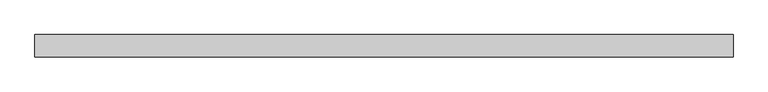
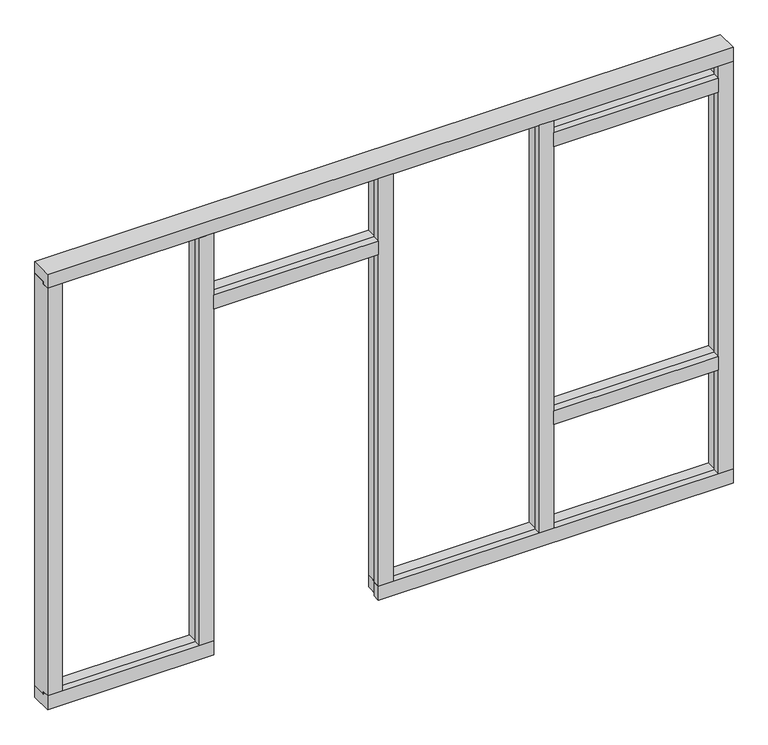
"""IFC4 building model written with IfcOpenShell, lengths in millimetres: proxy geometry, RBS_31_GM_pui_buiten_1 : pui-bxhxd=3750x2600x120."""

import ifcopenshell
import ifcopenshell.guid

model = None  # the IFC model being written
_history = None  # IfcOwnerHistory: only IFC2X3 demands one
_inside = {}  # id of a spatial element -> (the spatial element, [elements in it])
_under = {}  # id of a project, library or spatial element -> (it, [spatial elements below it])
_declared = {}  # id of a project -> (the project, [libraries it declares])
_typed = {}  # id of a type object -> (the type object, [elements of that type])
_made_of = {}  # id of a material, layer set ... -> (it, [elements and type objects made of it])


def new_model(schema):
    """Start an empty IFC model of exactly this schema.

    Asked for "IFC4X3", IfcOpenShell would pick the latest addendum, in which some entities
    have other attributes; the version numbers below select the first issue.
    IFC2X3 requires an IfcOwnerHistory on every rooted entity: one is made here for all.
    """
    global model, _history
    if schema == "IFC4X3":
        model = ifcopenshell.file(schema_version=(4, 3, 0, 0))
    else:
        model = ifcopenshell.file(schema=schema)
    _inside.clear()
    _under.clear()
    _declared.clear()
    _typed.clear()
    _made_of.clear()
    _history = None
    if model.schema == "IFC2X3":
        org = make("IfcOrganization", Name="unknown")
        user = make(
            "IfcPersonAndOrganization",
            ThePerson=make("IfcPerson", FamilyName="unknown"),
            TheOrganization=org,
        )
        app = make(
            "IfcApplication",
            ApplicationDeveloper=org,
            Version="unknown",
            ApplicationFullName="unknown",
            ApplicationIdentifier="unknown",
        )
        _history = make(
            "IfcOwnerHistory",
            OwningUser=user,
            OwningApplication=app,
            ChangeAction="ADDED",
            CreationDate=0,
        )
    return model


def make(cls, **values):
    """One entity of the class cls with the attributes given. An attribute that is None is left unset."""
    return model.create_entity(
        cls, **{name: value for name, value in values.items() if value is not None}
    )


def rooted(cls, **values):
    """An entity with a GlobalId (a new one), such as an element, a storey or a relation."""
    return make(cls, GlobalId=ifcopenshell.guid.new(), OwnerHistory=_history, **values)


def si_unit(unit_type, name, prefix=None):
    """IfcSIUnit, for example si_unit("LENGTHUNIT", "METRE", prefix="MILLI")."""
    return make("IfcSIUnit", UnitType=unit_type, Prefix=prefix, Name=name)


def assignment(units):
    """IfcUnitAssignment: the units of a project."""
    return None if units is None else make("IfcUnitAssignment", Units=units)


def point(xyz):
    """IfcCartesianPoint."""
    return None if xyz is None else make("IfcCartesianPoint", Coordinates=xyz)


def direction(xyz):
    """IfcDirection."""
    return None if xyz is None else make("IfcDirection", DirectionRatios=xyz)


def frame(location, z_axis=None, x_axis=None):
    """IfcAxis2Placement3D, a coordinate frame: its origin and axes. An axis left out is left unset."""
    return make(
        "IfcAxis2Placement3D",
        Location=point(location),
        Axis=direction(z_axis),
        RefDirection=direction(x_axis),
    )


def origin():
    """The frame at (0, 0, 0) with its axes left unset."""
    return frame((0.0, 0.0, 0.0))


def place(relative_to, where):
    """IfcLocalPlacement: puts the frame where relative to a parent placement (None: the world)."""
    return make(
        "IfcLocalPlacement", PlacementRelTo=relative_to, RelativePlacement=where
    )


def context(
    kind, dimensions, precision=None, world=None, true_north=None, identifier=None
):
    """IfcGeometricRepresentationContext, for example the 3D "Model" context."""
    return make(
        "IfcGeometricRepresentationContext",
        ContextIdentifier=identifier,
        ContextType=kind,
        CoordinateSpaceDimension=dimensions,
        Precision=precision,
        WorldCoordinateSystem=world,
        TrueNorth=true_north,
    )


def project(units=None, contexts=None):
    """IfcProject with its units and contexts."""
    return rooted(
        "IfcProject",
        Name="project",
        RepresentationContexts=contexts,
        UnitsInContext=assignment(units),
    )


def spatial(cls, under=None, at=None, **own):
    """A site, building, storey or space (cls), placed at a placement, below another one or the project."""
    s = rooted(cls, ObjectPlacement=at, **own)
    if under is not None:
        _under.setdefault(under.id(), (under, []))[1].append(s)
    return s


def polyline(points):
    """IfcPolyline through the points."""
    return make("IfcPolyline", Points=[point(p) for p in points])


def outline(outer, holes=None, kind="AREA"):
    """IfcArbitraryClosedProfileDef: a profile drawn as a closed curve; with holes, ...WithVoids."""
    if holes is None:
        return make("IfcArbitraryClosedProfileDef", ProfileType=kind, OuterCurve=outer)
    return make(
        "IfcArbitraryProfileDefWithVoids",
        ProfileType=kind,
        OuterCurve=outer,
        InnerCurves=holes,
    )


def extrude(swept, where, along, depth):
    """IfcExtrudedAreaSolid: the profile swept, set in the frame where, extruded along a direction by depth."""
    return make(
        "IfcExtrudedAreaSolid",
        SweptArea=swept,
        Position=where,
        ExtrudedDirection=direction(along),
        Depth=depth,
    )


def faces_of(points, faces, orient=None, outer=None):
    """IfcFace entities. A face is a list of loops; a loop is a list of indices into points, from 0.

    orient and outer hold one flag for each loop. By default every Orientation is true, the
    first loop of a face is its IfcFaceOuterBound and the others are IfcFaceBound.
    """
    made = []
    for i, loops in enumerate(faces):
        bounds = []
        for j, loop in enumerate(loops):
            is_outer = j == 0 if outer is None else outer[i][j]
            bounds.append(
                make(
                    "IfcFaceOuterBound" if is_outer else "IfcFaceBound",
                    Bound=make("IfcPolyLoop", Polygon=[points[k] for k in loop]),
                    Orientation=True if orient is None else orient[i][j],
                )
            )
        made.append(make("IfcFace", Bounds=bounds))
    return made


def faceted_brep(points, faces, orient=None, outer=None, voids=None):
    """IfcFacetedBrep: a solid bounded by flat faces; with voids (closed shells), ...WithVoids."""
    shared = [point(p) for p in points]
    hull = make("IfcClosedShell", CfsFaces=faces_of(shared, faces, orient, outer))
    if voids is None:
        return make("IfcFacetedBrep", Outer=hull)
    return make(
        "IfcFacetedBrepWithVoids",
        Outer=hull,
        Voids=[
            make(cls, CfsFaces=faces_of(shared, fs, o, b)) for cls, fs, o, b in voids
        ],
    )


def shape(context_of_items, identifier, shape_type, items):
    """IfcShapeRepresentation: the items that make up one representation, for example the "Body"."""
    return make(
        "IfcShapeRepresentation",
        ContextOfItems=context_of_items,
        RepresentationIdentifier=identifier,
        RepresentationType=shape_type,
        Items=items,
    )


def source(mapping_origin, context_of_items, identifier, shape_type, items):
    """IfcRepresentationMap: a shape defined once, which mapped items show again and again."""
    return make(
        "IfcRepresentationMap",
        MappingOrigin=mapping_origin,
        MappedRepresentation=shape(context_of_items, identifier, shape_type, items),
    )


def transform(
    local_origin,
    x_axis=None,
    y_axis=None,
    z_axis=None,
    scale=None,
    scale2=None,
    scale3=None,
    uniform=True,
):
    """IfcCartesianTransformationOperator3D, or its non-uniform kind. x_axis, y_axis, z_axis: its Axis1, 2, 3."""
    if uniform:
        return make(
            "IfcCartesianTransformationOperator3D",
            Axis1=direction(x_axis),
            Axis2=direction(y_axis),
            LocalOrigin=point(local_origin),
            Scale=scale,
            Axis3=direction(z_axis),
        )
    return make(
        "IfcCartesianTransformationOperator3DnonUniform",
        Axis1=direction(x_axis),
        Axis2=direction(y_axis),
        LocalOrigin=point(local_origin),
        Scale=scale,
        Axis3=direction(z_axis),
        Scale2=scale2,
        Scale3=scale3,
    )


def mapped(mapping_source, mapping_target):
    """IfcMappedItem: shows the shape of a source again, moved by a transform."""
    return make(
        "IfcMappedItem", MappingSource=mapping_source, MappingTarget=mapping_target
    )


def made_of(thing, what):
    """Note that an element or type object is made of a material, layer set ...; save() writes the relation."""
    if what is not None:
        _made_of.setdefault(what.id(), (what, []))[1].append(thing)
    return thing


def element(
    cls,
    number,
    at=None,
    inside=None,
    cuts=None,
    type_object=None,
    material=None,
    context=None,
    identifier="Body",
    shape_type=None,
    held_by="IfcProductDefinitionShape",
    body=None,
    shapes=None,
    **own,
):
    """One element of the class cls, such as IfcWall. Its Tag is "e" and its number.

    at: its placement. inside: the storey or other place that contains it. cuts: it is an
    opening in that element (IfcRelVoidsElement). A single representation is given by context,
    identifier, shape_type and body (its items); several are given by shapes. held_by: the class
    of the entity that holds the representations. save() writes the other relations.
    """
    e = rooted(cls, Tag="e%d" % number, ObjectPlacement=at, **own)
    if body is not None:
        shapes = [shape(context, identifier, shape_type, body)]
    if shapes is not None:
        e.Representation = make(held_by, Representations=shapes)
    if inside is not None:
        _inside.setdefault(inside.id(), (inside, []))[1].append(e)
    if cuts is not None:
        rooted(
            "IfcRelVoidsElement", RelatingBuildingElement=cuts, RelatedOpeningElement=e
        )
    if type_object is not None:
        _typed.setdefault(type_object.id(), (type_object, []))[1].append(e)
    return made_of(e, material)


def aggregate(whole, parts):
    """IfcRelAggregates: a whole, such as a stair, and the parts it consists of."""
    return rooted("IfcRelAggregates", RelatingObject=whole, RelatedObjects=parts)


def save(model, path):
    """Write the relations noted so far, then the file.

    IfcRelAggregates (storeys below a building ...), IfcRelContainedInSpatialStructure (elements
    in a storey), IfcRelDefinesByType, IfcRelAssociatesMaterial and IfcRelDeclares: one each for
    every whole, place, type object, material and project.
    """
    for whole, parts in _under.values():
        aggregate(whole, parts)
    for where, things in _inside.values():
        rooted(
            "IfcRelContainedInSpatialStructure",
            RelatedElements=things,
            RelatingStructure=where,
        )
    for kind, things in _typed.values():
        rooted("IfcRelDefinesByType", RelatedObjects=things, RelatingType=kind)
    for what, things in _made_of.values():
        rooted("IfcRelAssociatesMaterial", RelatedObjects=things, RelatingMaterial=what)
    for by, libraries in _declared.values():
        rooted("IfcRelDeclares", RelatingContext=by, RelatedDefinitions=libraries)
    model.write(path)


def generic_models_c9854ee7(model_context):
    return source(origin(), model_context, "Body", "SolidModel", [
        faceted_brep([(1935.0, 160.0, 2385.0), (1935.0, 160.0, 2435.0), (1935.0, 80.0, 2435.0), (1935.0, 80.0, 2385.0), (1005.0, 160.0, 2435.0), (1005.0, 160.0, 2385.0), (1005.0, 80.0, 2385.0), (1005.0, 80.0, 2435.0), (1020.0, 40.0, 2450.0), (1020.0, 40.0, 2370.0), (1920.0, 40.0, 2370.0), (1920.0, 40.0, 2450.0), (1920.0, 80.0, 2385.0), (1020.0, 80.0, 2385.0), (1020.0, 80.0, 2435.0), (1920.0, 80.0, 2435.0), (1020.0, 80.0, 2370.0), (1920.0, 80.0, 2370.0), (1020.0, 80.0, 2450.0), (1920.0, 80.0, 2450.0)], [[[0, 1, 2, 3]], [[4, 5, 6, 7]], [[8, 9, 10, 11]], [[5, 0, 3, 12, 13, 6]], [[1, 0, 5, 4]], [[1, 4, 7, 14, 15, 2]], [[9, 16, 17, 10]], [[16, 13, 12, 17]], [[18, 8, 11, 19]], [[14, 18, 19, 15]], [[13, 14, 7, 6]], [[14, 13, 16, 9, 8, 18]], [[15, 12, 3, 2]], [[12, 15, 19, 11, 10, 17]]]),
        faceted_brep([(75.0, 160.0, 80.0), (75.0, 80.0, 80.0), (75.0, 80.0, 145.0), (75.0, 160.0, 145.0), (2000.0, 160.0, 145.0), (2000.0, 80.0, 145.0), (2000.0, 80.0, 160.0), (2000.0, 40.0, 160.0), (2000.0, 40.0, 80.0), (2000.0, 160.0, 80.0), (60.0, 40.0, 80.0), (60.0, 40.0, 160.0), (60.0, 80.0, 80.0), (60.0, 80.0, 160.0)], [[[0, 1, 2, 3]], [[4, 5, 6, 7, 8, 9]], [[10, 8, 7, 11]], [[10, 12, 1, 0, 9, 8]], [[3, 4, 9, 0]], [[3, 2, 5, 4]], [[5, 2, 1, 12, 13, 6]], [[13, 11, 7, 6]], [[11, 13, 12, 10]]]),
        faceted_brep([(-855.0, 160.0, 80.0), (-855.0, 160.0, 145.0), (-855.0, 80.0, 145.0), (-855.0, 80.0, 80.0), (-1750.0, 160.0, 145.0), (-1750.0, 160.0, 80.0), (-1750.0, 40.0, 80.0), (-1750.0, 40.0, 160.0), (-1750.0, 80.0, 160.0), (-1750.0, 80.0, 145.0), (-840.0, 40.0, 80.0), (-840.0, 40.0, 160.0), (-840.0, 80.0, 80.0), (-840.0, 80.0, 160.0)], [[[0, 1, 2, 3]], [[4, 5, 6, 7, 8, 9]], [[10, 11, 7, 6]], [[10, 6, 5, 0, 3, 12]], [[1, 0, 5, 4]], [[1, 4, 9, 2]], [[9, 8, 13, 12, 3, 2]], [[13, 8, 7, 11]], [[11, 10, 12, 13]]]),
        faceted_brep([(1935.0, 160.0, 775.0), (1935.0, 160.0, 825.0), (1935.0, 80.0, 825.0), (1935.0, 80.0, 775.0), (1005.0, 160.0, 825.0), (1005.0, 160.0, 775.0), (1005.0, 80.0, 775.0), (1005.0, 80.0, 825.0), (1020.0, 40.0, 840.0), (1020.0, 40.0, 760.0), (1920.0, 40.0, 760.0), (1920.0, 40.0, 840.0), (1920.0, 80.0, 775.0), (1020.0, 80.0, 775.0), (1020.0, 80.0, 825.0), (1920.0, 80.0, 825.0), (1020.0, 80.0, 760.0), (1920.0, 80.0, 760.0), (1020.0, 80.0, 840.0), (1920.0, 80.0, 840.0)], [[[0, 1, 2, 3]], [[4, 5, 6, 7]], [[8, 9, 10, 11]], [[5, 0, 3, 12, 13, 6]], [[1, 0, 5, 4]], [[1, 4, 7, 14, 15, 2]], [[9, 16, 17, 10]], [[16, 13, 12, 17]], [[18, 8, 11, 19]], [[14, 18, 19, 15]], [[13, 14, 7, 6]], [[14, 13, 16, 9, 8, 18]], [[15, 12, 3, 2]], [[12, 15, 19, 11, 10, 17]]]),
        faceted_brep([(75.0, 160.0, 2095.0), (75.0, 160.0, 2145.0), (75.0, 80.0, 2145.0), (75.0, 80.0, 2095.0), (-855.0, 160.0, 2145.0), (-855.0, 160.0, 2095.0), (-855.0, 80.0, 2095.0), (-855.0, 80.0, 2145.0), (-840.0, 40.0, 2160.0), (-840.0, 40.0, 2080.0), (60.0, 40.0, 2080.0), (60.0, 40.0, 2160.0), (60.0, 80.0, 2095.0), (-840.0, 80.0, 2095.0), (-840.0, 80.0, 2145.0), (60.0, 80.0, 2145.0), (-840.0, 80.0, 2080.0), (60.0, 80.0, 2080.0), (-840.0, 80.0, 2160.0), (60.0, 80.0, 2160.0)], [[[0, 1, 2, 3]], [[4, 5, 6, 7]], [[8, 9, 10, 11]], [[5, 0, 3, 12, 13, 6]], [[1, 0, 5, 4]], [[1, 4, 7, 14, 15, 2]], [[9, 16, 17, 10]], [[16, 13, 12, 17]], [[18, 8, 11, 19]], [[14, 18, 19, 15]], [[13, 14, 7, 6]], [[14, 13, 16, 9, 8, 18]], [[15, 12, 3, 2]], [[12, 15, 19, 11, 10, 17]]]),
        faceted_brep([(955.0, 160.0, 145.0), (1005.0, 160.0, 145.0), (1005.0, 80.0, 145.0), (955.0, 80.0, 145.0), (955.0, 160.0, 2535.0), (1005.0, 160.0, 2535.0), (1005.0, 80.0, 2535.0), (1005.0, 80.0, 2520.0), (1005.0, 80.0, 160.0), (955.0, 80.0, 160.0), (955.0, 80.0, 2520.0), (955.0, 80.0, 2535.0), (1020.0, 40.0, 2520.0), (940.0, 40.0, 2520.0), (940.0, 40.0, 160.0), (1020.0, 40.0, 160.0), (940.0, 80.0, 2520.0), (940.0, 80.0, 160.0), (1020.0, 80.0, 160.0), (1020.0, 80.0, 2520.0)], [[[0, 1, 2, 3]], [[4, 5, 1, 0]], [[1, 5, 6, 7, 8, 2]], [[8, 9, 3, 2]], [[4, 0, 3, 9, 10, 11]], [[12, 13, 14, 15]], [[13, 16, 17, 14]], [[9, 8, 18, 15, 14, 17]], [[19, 12, 15, 18]], [[7, 19, 18, 8]], [[16, 10, 9, 17]], [[5, 4, 11, 6]], [[10, 7, 6, 11]], [[7, 10, 16, 13, 12, 19]]]),
        faceted_brep([(75.0, 160.0, 145.0), (125.0, 160.0, 145.0), (125.0, 80.0, 145.0), (75.0, 80.0, 145.0), (75.0, 160.0, 2535.0), (125.0, 160.0, 2535.0), (125.0, 80.0, 2535.0), (125.0, 80.0, 2520.0), (125.0, 80.0, 160.0), (75.0, 80.0, 160.0), (75.0, 80.0, 2520.0), (75.0, 80.0, 2535.0), (140.0, 40.0, 2520.0), (60.0, 40.0, 2520.0), (60.0, 40.0, 160.0), (140.0, 40.0, 160.0), (60.0, 80.0, 2520.0), (60.0, 80.0, 160.0), (140.0, 80.0, 160.0), (140.0, 80.0, 2520.0)], [[[0, 1, 2, 3]], [[4, 5, 1, 0]], [[1, 5, 6, 7, 8, 2]], [[8, 9, 3, 2]], [[4, 0, 3, 9, 10, 11]], [[12, 13, 14, 15]], [[13, 16, 17, 14]], [[9, 8, 18, 15, 14, 17]], [[19, 12, 15, 18]], [[7, 19, 18, 8]], [[16, 10, 9, 17]], [[5, 4, 11, 6]], [[10, 7, 6, 11]], [[7, 10, 16, 13, 12, 19]]]),
        faceted_brep([(-905.0, 160.0, 145.0), (-855.0, 160.0, 145.0), (-855.0, 80.0, 145.0), (-905.0, 80.0, 145.0), (-905.0, 160.0, 2535.0), (-855.0, 160.0, 2535.0), (-855.0, 80.0, 2535.0), (-855.0, 80.0, 2520.0), (-855.0, 80.0, 160.0), (-905.0, 80.0, 160.0), (-905.0, 80.0, 2520.0), (-905.0, 80.0, 2535.0), (-840.0, 40.0, 2520.0), (-920.0, 40.0, 2520.0), (-920.0, 40.0, 160.0), (-840.0, 40.0, 160.0), (-920.0, 80.0, 2520.0), (-920.0, 80.0, 160.0), (-840.0, 80.0, 160.0), (-840.0, 80.0, 2520.0)], [[[0, 1, 2, 3]], [[4, 5, 1, 0]], [[1, 5, 6, 7, 8, 2]], [[8, 9, 3, 2]], [[4, 0, 3, 9, 10, 11]], [[12, 13, 14, 15]], [[13, 16, 17, 14]], [[9, 8, 18, 15, 14, 17]], [[19, 12, 15, 18]], [[7, 19, 18, 8]], [[16, 10, 9, 17]], [[5, 4, 11, 6]], [[10, 7, 6, 11]], [[7, 10, 16, 13, 12, 19]]]),
        extrude(outline(polyline([(40.0, 2600.0), (160.0, 2600.0), (160.0, 2535.0), (80.0, 2535.0), (80.0, 2520.0), (40.0, 2520.0), (40.0, 2600.0)])), frame((-1750.0, 0.0, 0.0), z_axis=(1.0, 0.0, 0.0), x_axis=(0.0, 1.0, 0.0)), (0.0, 0.0, 1.0), 3750.0),
        faceted_brep([(2000.0, 160.0, 145.0), (2000.0, 80.0, 145.0), (1935.0, 80.0, 145.0), (1935.0, 160.0, 145.0), (1935.0, 80.0, 2520.0), (1935.0, 80.0, 160.0), (1920.0, 80.0, 160.0), (1920.0, 80.0, 2520.0), (1920.0, 40.0, 160.0), (1920.0, 40.0, 2520.0), (2000.0, 40.0, 160.0), (2000.0, 40.0, 2520.0), (2000.0, 160.0, 2535.0), (2000.0, 80.0, 2535.0), (2000.0, 80.0, 2520.0), (2000.0, 80.0, 160.0), (1935.0, 160.0, 2535.0), (1935.0, 80.0, 2535.0)], [[[0, 1, 2, 3]], [[4, 5, 6, 7]], [[7, 6, 8, 9]], [[9, 8, 10, 11]], [[12, 13, 14, 11, 10, 15, 1, 0]], [[12, 0, 3, 16]], [[3, 2, 5, 4, 17, 16]], [[16, 17, 13, 12]], [[14, 13, 17, 4]], [[4, 7, 9, 11, 14]], [[5, 2, 1, 15]], [[15, 10, 8, 6, 5]]]),
        faceted_brep([(-1750.0, 160.0, 145.0), (-1685.0, 160.0, 145.0), (-1685.0, 80.0, 145.0), (-1750.0, 80.0, 145.0), (-1685.0, 80.0, 2520.0), (-1670.0, 80.0, 2520.0), (-1670.0, 80.0, 160.0), (-1685.0, 80.0, 160.0), (-1670.0, 40.0, 2520.0), (-1670.0, 40.0, 160.0), (-1750.0, 40.0, 2520.0), (-1750.0, 40.0, 160.0), (-1750.0, 160.0, 2535.0), (-1750.0, 80.0, 160.0), (-1750.0, 80.0, 2520.0), (-1750.0, 80.0, 2535.0), (-1685.0, 160.0, 2535.0), (-1685.0, 80.0, 2535.0)], [[[0, 1, 2, 3]], [[4, 5, 6, 7]], [[5, 8, 9, 6]], [[8, 10, 11, 9]], [[12, 0, 3, 13, 11, 10, 14, 15]], [[12, 16, 1, 0]], [[1, 16, 17, 4, 7, 2]], [[16, 12, 15, 17]], [[14, 4, 17, 15]], [[4, 14, 10, 8, 5]], [[7, 13, 3, 2]], [[13, 7, 6, 9, 11]]]),
    ])


if __name__ == "__main__":
    model = new_model("IFC4")
    model_context = context("Model", 3, world=origin())
    ifc_project = project(units=[si_unit("LENGTHUNIT", "METRE", prefix="MILLI")], contexts=[model_context])
    site = spatial("IfcSite", under=ifc_project)
    building = spatial("IfcBuilding", under=site)
    placement = place(None, origin())
    generic_models_shape = generic_models_c9854ee7(model_context)
    element("IfcBuildingElementProxy", 1, Name="RBS_31_GM_pui_buiten_1 : pui-bxhxd=3750x2600x120", ObjectType="RBS_31_GM_pui_buiten_1 : pui-bxhxd=3750x2600x120", at=placement, inside=building, context=model_context, shape_type="MappedRepresentation", body=[
        mapped(generic_models_shape, transform((0.0, 0.0, 0.0), x_axis=(1.0, 0.0, 0.0), y_axis=(0.0, 1.0, 0.0), z_axis=(0.0, 0.0, 1.0))),
    ])
    save(model, "model.ifc")
